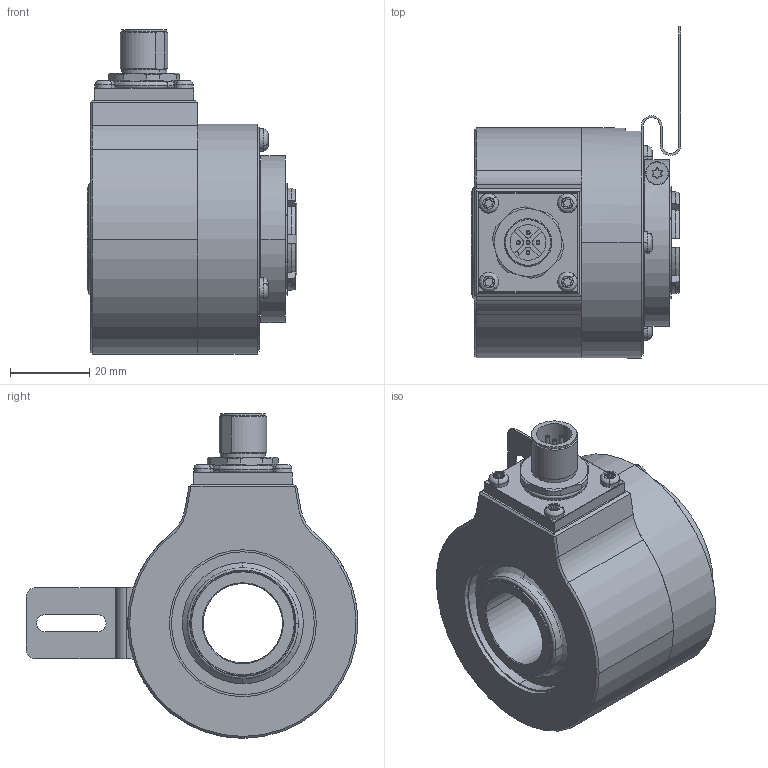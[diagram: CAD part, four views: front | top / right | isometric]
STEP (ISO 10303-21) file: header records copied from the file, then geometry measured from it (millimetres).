
FILE_DESCRIPTION (( 'STEP AP203' ), '1' );
FILE_NAME ('K58I.OXX.XXXXX.XH25520.XXRC6.step', '2025-12-03T09:30:51', ( '' ), ( '' ), 'SwSTEP 2.0', 'SolidWorks 2021', '' );
FILE_SCHEMA (( 'CONFIG_CONTROL_DESIGN' ));
Length unit declared in the file: millimetre
Products named in the file (1): K58I.OXX.XXXXX.XH25520.XXRC6
Bounding box: 52.85 x 83.61 x 81.8 mm (x, y, z)
Surface area: 52731.2 mm2 (no closed solid volume)
Topology: 0 solids, 14 shells, 663 faces, 1706 edges, 1086 vertices
Faces by surface type: cylinder 298, plane 212, cone 101, bspline 30, torus 22
Entity records: 23100 total; most frequent: CARTESIAN_POINT 6860, DIRECTION 3459, ORIENTED_EDGE 3372, EDGE_CURVE 1694, AXIS2_PLACEMENT_3D 1365, VERTEX_POINT 1086, EDGE_LOOP 734, CIRCLE 731
